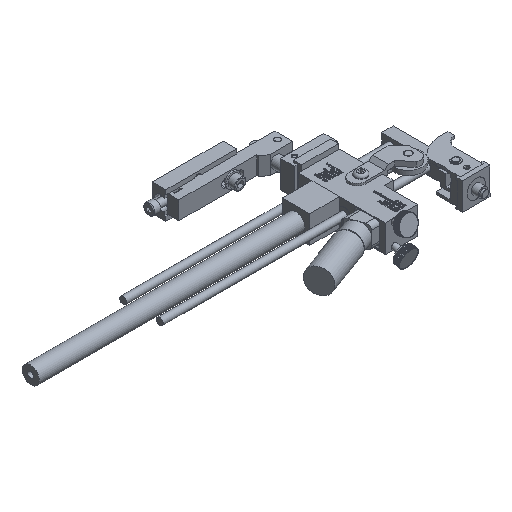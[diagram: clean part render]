
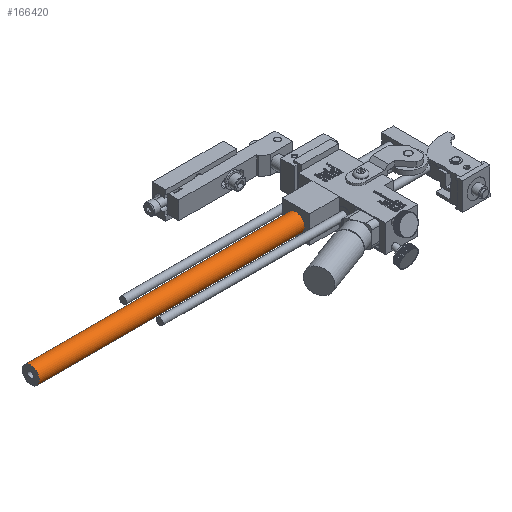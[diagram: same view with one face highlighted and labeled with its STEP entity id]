
A CAD part, isometric view. The second image highlights one B-rep face of the part: STEP entity #166420.
In plain terms, the highlighted cylindrical face has radius 5.969 mm (diameter 11.938 mm), a full revolution.
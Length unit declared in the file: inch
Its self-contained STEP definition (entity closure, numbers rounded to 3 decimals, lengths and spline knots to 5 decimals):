
#166098=CARTESIAN_POINT('',(-1.4995,0.8125,0.61));
#166099=VERTEX_POINT('',#166098);
#166100=CARTESIAN_POINT('',(-1.4995,0.8125,0.375));
#166101=DIRECTION('',(1.0,0.0,0.0));
#166102=DIRECTION('',(0.0,0.0,-1.0));
#166103=AXIS2_PLACEMENT_3D('',#166100,#166101,#166102);
#166104=CIRCLE('',#166103,0.235);
#166105=EDGE_CURVE('',#166099,#166099,#166104,.T.);
#166386=CARTESIAN_POINT('',(-8.7495,0.8125,0.61));
#166387=VERTEX_POINT('',#166386);
#166388=CARTESIAN_POINT('',(-8.7495,0.8125,0.375));
#166389=DIRECTION('',(1.0,0.0,0.0));
#166390=DIRECTION('',(0.0,0.0,-1.0));
#166391=AXIS2_PLACEMENT_3D('',#166388,#166389,#166390);
#166392=CIRCLE('',#166391,0.235);
#166393=EDGE_CURVE('',#166387,#166387,#166392,.T.);
#166409=CARTESIAN_POINT('',(-1.4995,0.8125,0.375));
#166410=DIRECTION('',(-1.0,0.,0.));
#166411=DIRECTION('',(0.0,0.0,-1.0));
#166412=AXIS2_PLACEMENT_3D('',#166409,#166410,#166411);
#166413=CYLINDRICAL_SURFACE('',#166412,0.235);
#166414=ORIENTED_EDGE('',*,*,#166393,.T.);
#166415=EDGE_LOOP('',(#166414));
#166416=FACE_OUTER_BOUND('',#166415,.T.);
#166417=ORIENTED_EDGE('',*,*,#166105,.F.);
#166418=EDGE_LOOP('',(#166417));
#166419=FACE_BOUND('',#166418,.T.);
#166420=ADVANCED_FACE('',(#166416,#166419),#166413,.T.);
